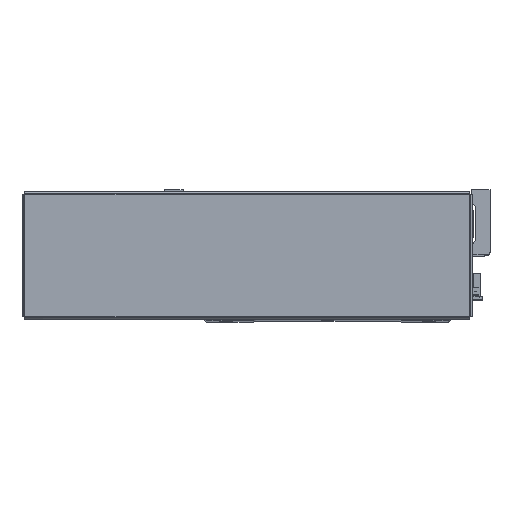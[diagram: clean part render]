
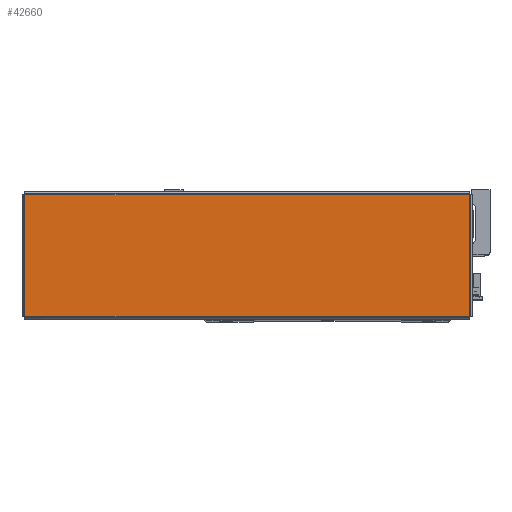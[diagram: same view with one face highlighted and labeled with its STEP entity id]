
A CAD part, top view. The second image highlights one B-rep face of the part: STEP entity #42660.
In plain terms, the highlighted planar face has unit normal (0, 0, 1) as drawn and (0, -1, 0) by its records, which use the part's own axes.
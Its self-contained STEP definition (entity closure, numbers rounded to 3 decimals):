
#5979 = ORIENTED_EDGE ( 'NONE', *, *, #24960, .T. ) ;
#5985 = ORIENTED_EDGE ( 'NONE', *, *, #24973, .T. ) ;
#5986 = ORIENTED_EDGE ( 'NONE', *, *, #24929, .T. ) ;
#6008 = ORIENTED_EDGE ( 'NONE', *, *, #24955, .T. ) ;
#9553 = VERTEX_POINT ( 'NONE', #44245 ) ;
#9557 = VERTEX_POINT ( 'NONE', #44231 ) ;
#9575 = VERTEX_POINT ( 'NONE', #44250 ) ;
#9582 = VERTEX_POINT ( 'NONE', #44259 ) ;
#10432 = EDGE_LOOP ( 'NONE', ( #5979, #5985, #5986, #6008 ) ) ;
#10723 = CARTESIAN_POINT ( 'NONE',  ( -154.013, -1.2, 42.293 ) ) ;
#10732 = DIRECTION ( 'NONE',  ( 0., 0., -1. ) ) ;
#10807 = CARTESIAN_POINT ( 'NONE',  ( -154.043, -1.2, -42.263 ) ) ;
#10838 = CARTESIAN_POINT ( 'NONE',  ( 154.013, -1.2, -42.293 ) ) ;
#10839 = DIRECTION ( 'NONE',  ( 0., 0., 1. ) ) ;
#10853 = DIRECTION ( 'NONE',  ( 1., 0., 0. ) ) ;
#10860 = CARTESIAN_POINT ( 'NONE',  ( 154.043, -1.2, 42.263 ) ) ;
#10866 = DIRECTION ( 'NONE',  ( -1., 0., 0. ) ) ;
#16089 = LINE ( 'NONE', #10860, #16177 ) ;
#16177 = VECTOR ( 'NONE', #10866, 1000. ) ;
#16937 = LINE ( 'NONE', #10723, #16942 ) ;
#16942 = VECTOR ( 'NONE', #10732, 1000. ) ;
#17002 = LINE ( 'NONE', #10807, #17013 ) ;
#17013 = VECTOR ( 'NONE', #10853, 1000. ) ;
#17014 = VECTOR ( 'NONE', #10839, 1000. ) ;
#17026 = LINE ( 'NONE', #10838, #17014 ) ;
#19364 = FACE_OUTER_BOUND ( 'NONE', #10432, .T. ) ;
#24929 = EDGE_CURVE ( 'NONE', #9553, #9575, #16937, .T. ) ;
#24955 = EDGE_CURVE ( 'NONE', #9575, #9557, #17002, .T. ) ;
#24960 = EDGE_CURVE ( 'NONE', #9557, #9582, #17026, .T. ) ;
#24973 = EDGE_CURVE ( 'NONE', #9582, #9553, #16089, .T. ) ;
#27549 = AXIS2_PLACEMENT_3D ( 'NONE', #41786, #41795, #41816 ) ;
#41786 = CARTESIAN_POINT ( 'NONE',  ( 0., -1.2, 0. ) ) ;
#41795 = DIRECTION ( 'NONE',  ( 0., 1., 0. ) ) ;
#41816 = DIRECTION ( 'NONE',  ( 0., 0., 1. ) ) ;
#41817 = PLANE ( 'NONE',  #27549 ) ;
#42660 = ADVANCED_FACE ( 'NONE', ( #19364 ), #41817, .F. ) ;
#44231 = CARTESIAN_POINT ( 'NONE',  ( 154.013, -1.2, -42.263 ) ) ;
#44245 = CARTESIAN_POINT ( 'NONE',  ( -154.013, -1.2, 42.263 ) ) ;
#44250 = CARTESIAN_POINT ( 'NONE',  ( -154.013, -1.2, -42.263 ) ) ;
#44259 = CARTESIAN_POINT ( 'NONE',  ( 154.013, -1.2, 42.263 ) ) ;
